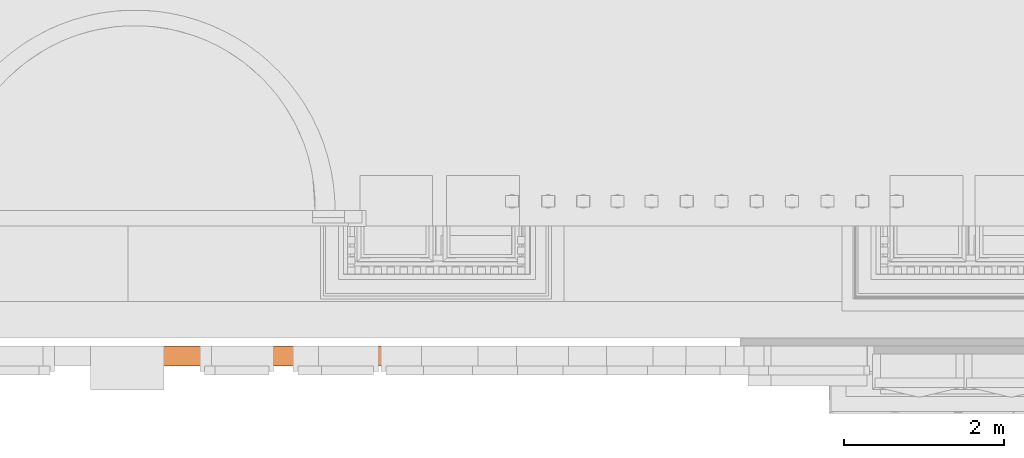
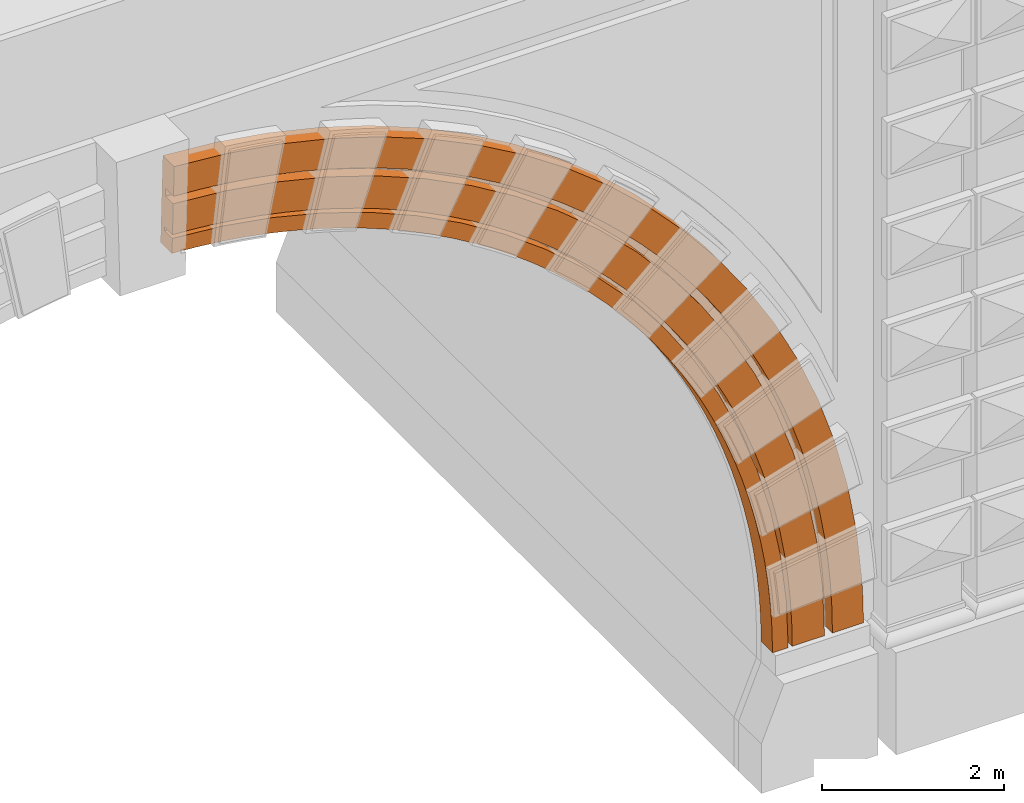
# One storey, part 36 of 44: 1 proxy.
"""IFC2X3 building model written with IfcOpenShell, lengths in metres."""

from ifc_helpers import new_model, entity, si_unit, converted_unit, derived_unit, direction, frame, origin, place, context, subcontext, project, spatial, faceted_brep, material, element, save


model = new_model("IFC2X3")

# Units and contexts
model_context = context("Model", 3, precision=1e-05, world=origin(), true_north=direction((6.12303176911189e-17, 1.0)))
body_context = subcontext(model_context, "Body", "Model", "MODEL_VIEW")
ifc_project = project(units=[si_unit("LENGTHUNIT", "METRE"), si_unit("AREAUNIT", "SQUARE_METRE"), si_unit("VOLUMEUNIT", "CUBIC_METRE"), converted_unit("PLANEANGLEUNIT", "DEGREE", entity("IfcRatioMeasure", 0.0174532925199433), si_unit("PLANEANGLEUNIT", "RADIAN"), dimensions=[0, 0, 0, 0, 0, 0, 0]), si_unit("MASSUNIT", "GRAM", prefix="KILO"), derived_unit("MASSDENSITYUNIT", [(si_unit("MASSUNIT", "GRAM", prefix="KILO"), 1), (si_unit("LENGTHUNIT", "METRE"), -3)]), si_unit("TIMEUNIT", "SECOND"), si_unit("FREQUENCYUNIT", "HERTZ"), si_unit("THERMODYNAMICTEMPERATUREUNIT", "DEGREE_CELSIUS"), derived_unit("THERMALTRANSMITTANCEUNIT", [(si_unit("MASSUNIT", "GRAM", prefix="KILO"), 1), (si_unit("THERMODYNAMICTEMPERATUREUNIT", "KELVIN"), -1), (si_unit("TIMEUNIT", "SECOND"), -3)]), derived_unit("VOLUMETRICFLOWRATEUNIT", [(si_unit("LENGTHUNIT", "METRE"), 3), (si_unit("TIMEUNIT", "SECOND"), -1)]), si_unit("ELECTRICCURRENTUNIT", "AMPERE"), si_unit("ELECTRICVOLTAGEUNIT", "VOLT"), si_unit("POWERUNIT", "WATT"), si_unit("FORCEUNIT", "NEWTON", prefix="KILO"), si_unit("ILLUMINANCEUNIT", "LUX"), si_unit("LUMINOUSFLUXUNIT", "LUMEN"), si_unit("LUMINOUSINTENSITYUNIT", "CANDELA"), derived_unit("USERDEFINED", [(si_unit("MASSUNIT", "GRAM", prefix="KILO"), -1), (si_unit("LENGTHUNIT", "METRE"), -2), (si_unit("TIMEUNIT", "SECOND"), 3), (si_unit("LUMINOUSFLUXUNIT", "LUMEN"), 1)]), derived_unit("LINEARVELOCITYUNIT", [(si_unit("LENGTHUNIT", "METRE"), 1), (si_unit("TIMEUNIT", "SECOND"), -1)]), si_unit("PRESSUREUNIT", "PASCAL"), derived_unit("USERDEFINED", [(si_unit("LENGTHUNIT", "METRE"), -2), (si_unit("MASSUNIT", "GRAM", prefix="KILO"), 1), (si_unit("TIMEUNIT", "SECOND"), -2)])], contexts=[model_context])

# Site, building, storey
site_placement = place(None, origin())
site = spatial("IfcSite", under=ifc_project, at=site_placement, Name="Default", CompositionType="ELEMENT")
building_placement = place(site_placement, origin())
building = spatial("IfcBuilding", under=site, at=building_placement, CompositionType="ELEMENT")
storey_placement = place(building_placement, origin())
storey = spatial("IfcBuildingStorey", under=building, at=storey_placement, Name="Livello 1", CompositionType="ELEMENT", Elevation=0.0)

# Proxy
ifc_material = material(Name="Travertino")
proxy_placement = place(storey_placement, frame((0.330023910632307, -0.484467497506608, 1.63453645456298)))
element("IfcBuildingElementProxy", 1, at=proxy_placement, inside=storey, material=ifc_material, Name="Stratigrafia", context=body_context, shape_type="Brep", body=[
    faceted_brep([(3.66785024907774, 0.0, 7.15240246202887), (3.84039615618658, 0.0, 6.81641642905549), (4.21215010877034, 0.0, 6.81287864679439), (3.57181402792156, 0.0, 6.97693078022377), (3.09877038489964, 0.0, 7.44852214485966), (2.73146384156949, 0.0, 7.39410196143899), (3.01692706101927, 0.0, 7.26599276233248), (3.2971854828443, 0.0, 7.12686536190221), (4.10252449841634, 0.0, 6.6455657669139), (4.84626354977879, 0.0, 6.07366328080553), (5.07870777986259, 0.0, 5.8642094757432), (5.21336506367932, 0.0, 6.01211296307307), (5.30282002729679, 0.0, 5.64586360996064), (5.87594781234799, 0.0, 5.31471735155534), (5.54465643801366, 0.0, 5.6634151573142), (4.72836616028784, 0.0, 6.43201154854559), (4.35780147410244, 0.0, 6.46463792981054), (4.6058398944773, 0.0, 6.27390733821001), (0.645545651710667, 0.0, 8.1671808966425), (0.934099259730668, 0.0, 7.92169843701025), (1.27801837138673, 0.0, 8.05986352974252), (0.624683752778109, 0.0, 7.96820930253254), (0.00663778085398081, 0.0, 8.22493460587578), (0.0015952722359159, 0.0, 8.02492897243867), (0.313691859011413, 0.0, 8.00263688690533), (1.24146907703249, 0.0, 7.86317483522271), (2.14666214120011, 0.0, 7.61650552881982), (2.44122879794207, 0.0, 7.51099865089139), (2.50836473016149, 0.0, 7.69944030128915), (1.90021694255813, 0.0, 7.90363390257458), (1.54632700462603, 0.0, 7.79272726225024), (1.84821065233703, 0.0, 7.71046256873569), (7.59548196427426, 0.0, 1.90913307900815), (7.40110790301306, 0.0, 1.86202278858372), (7.46762192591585, 0.0, 1.55628253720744), (7.32273942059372, 0.0, 2.16494125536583), (7.13093233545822, 0.0, 2.7604800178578), (7.23263534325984, 0.0, 2.46457848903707), (7.42267025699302, 0.0, 2.52693148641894), (7.2022874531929, 0.0, 3.12940155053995), (7.52218060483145, 0.0, 1.24818422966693), (7.71967363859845, 0.0, 1.27975625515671), (7.79449145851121, 0.0, 0.642621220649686), (7.59511918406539, 0.0, 0.626785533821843), (7.61338845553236, 0.0, 0.314427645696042), (7.61948129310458, 0.0, 0.00159527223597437), (7.81948129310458, 0.0, 0.0015952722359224), (7.56470118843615, 0.0, 0.938195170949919), (6.10935103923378, 0.0, 4.69037463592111), (6.28697494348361, 0.0, 4.43278782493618), (6.27048262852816, 0.0, 4.80887050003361), (6.62443992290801, 0.0, 4.27384433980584), (5.9218319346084, 0.0, 4.94084978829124), (5.51826037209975, 0.0, 5.4189568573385), (5.72470204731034, 0.0, 5.18383337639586), (6.93567123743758, 0.0, 3.71288638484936), (6.75785883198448, 0.0, 3.62131472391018), (6.89336391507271, 0.0, 3.33928708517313), (7.01778465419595, 0.0, 3.05219703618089), (6.4544342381, 0.0, 4.16848004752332), (6.61147493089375, 0.0, 3.89785218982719), (4.36569528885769, 0.0, 7.26375401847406), (3.80937170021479, 0.0, 7.12791318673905), (4.0795670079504, 0.0, 6.96067453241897), (3.80012832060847, 0.0, 7.60595490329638), (3.21019697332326, 0.0, 7.90419716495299), (2.96313095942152, 0.0, 7.56581027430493), (3.25074270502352, 0.0, 7.4307038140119), (3.53296136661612, 0.0, 7.28466649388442), (4.34314973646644, 0.0, 6.78319659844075), (4.84893646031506, 0.0, 6.39858210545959), (5.09039626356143, 0.0, 6.19201145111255), (5.41081830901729, 0.0, 6.45563171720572), (5.32375619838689, 0.0, 5.97633249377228), (5.8843328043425, 0.0, 5.99438182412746), (4.90362849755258, 0.0, 6.87957267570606), (4.59973206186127, 0.0, 6.59574051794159), (5.54867290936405, 0.0, 5.75186257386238), (0.264396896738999, 0.0, 8.2578416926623), (0.520241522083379, 0.0, 8.23279758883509), (0.676726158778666, 0.0, 8.62710915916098), (0.835230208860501, 0.0, 8.19088817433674), (1.14837988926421, 0.0, 8.13692939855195), (1.32890413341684, 0.0, 8.51926051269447), (0.00789839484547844, 0.0, 8.27493549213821), (0.018239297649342, 0.0, 8.6850961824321), (1.45922980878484, 0.0, 8.07100065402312), (2.59931147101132, 0.0, 8.1567567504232), (2.07220493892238, 0.0, 7.90363874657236), (2.37342824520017, 0.0, 7.8024518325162), (2.67054930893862, 0.0, 7.68978708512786), (1.76732259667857, 0.0, 7.99319894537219), (1.97100316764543, 0.0, 8.36217368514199), (7.77214940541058, 0.0, 1.26774898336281), (7.8146850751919, 0.0, 0.952844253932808), (8.17926893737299, 0.0, 1.31889137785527), (7.71756805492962, 0.0, 1.58079075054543), (7.38065520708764, 0.0, 2.80517159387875), (7.48244088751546, 0.0, 2.504150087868), (7.880467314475, 0.0, 2.60577185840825), (7.57260715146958, 0.0, 2.19944643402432), (7.65102133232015, 0.0, 1.89150895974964), (8.05434652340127, 0.0, 1.96801527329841), (8.25451241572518, 0.0, 0.6621525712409), (7.84511247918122, 0.0, 0.636539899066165), (7.86338684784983, 0.0, 0.319301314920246), (7.86948129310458, 0.0, 0.00159527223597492), (8.27964199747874, 0.0, 0.00159527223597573), (7.65863645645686, 0.0, 3.22847444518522), (6.32143473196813, 0.0, 5.49848934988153), (6.16951939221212, 0.0, 5.029071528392), (6.71959733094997, 0.0, 4.97082090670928), (6.3574853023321, 0.0, 4.77286245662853), (6.5354870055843, 0.0, 4.50963315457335), (5.7648154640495, 0.0, 5.5189319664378), (5.97186583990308, 0.0, 5.27788339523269), (6.7032625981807, 0.0, 4.23977092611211), (7.07651893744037, 0.0, 4.41442679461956), (7.39013628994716, 0.0, 3.83252336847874), (7.00716343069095, 0.0, 3.68174511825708), (7.14284152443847, 0.0, 3.39440259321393), (7.26739987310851, 0.0, 3.10206804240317), (6.86056522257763, 0.0, 3.96367283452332), (3.84709909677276, 0.0, 7.69425371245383), (4.13651140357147, 0.0, 7.52664900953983), (4.45633182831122, 0.0, 7.7917055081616), (4.41934168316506, 0.0, 7.3481613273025), (5.01080087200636, 0.0, 7.41622764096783), (3.27284904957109, 0.0, 8.41673717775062), (3.2502115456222, 0.0, 7.99586068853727), (3.55152332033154, 0.0, 7.85073304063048), (3.8759869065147, 0.0, 8.1258002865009), (4.69518089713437, 0.0, 7.15904880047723), (5.47681686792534, 0.0, 6.53077159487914), (5.72081220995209, 0.0, 6.30204229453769), (6.03048249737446, 0.0, 6.5493104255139), (5.95593425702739, 0.0, 6.06420108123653), (6.49027826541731, 0.0, 6.06247636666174), (5.53644855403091, 0.0, 7.00136132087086), (4.96363011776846, 0.0, 6.95958492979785), (5.2243011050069, 0.0, 6.7500581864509), (0.354416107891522, 0.0, 8.7621877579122), (0.686959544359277, 0.0, 8.72661132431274), (0.697903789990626, 0.0, 9.12159776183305), (1.01790980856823, 0.0, 8.67841648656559), (1.34678826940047, 0.0, 8.61767294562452), (1.35922085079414, 0.0, 9.01633953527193), (0.0207604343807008, 0.0, 8.7850943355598), (0.0306765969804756, 0.0, 9.17840816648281), (1.67311929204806, 0.0, 8.54446855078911), (2.65012228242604, 0.0, 8.66297064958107), (2.31625558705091, 0.0, 8.36111854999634), (2.63213073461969, 0.0, 8.25123811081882), (2.94359953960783, 0.0, 8.12942676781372), (1.99643092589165, 0.0, 8.45890917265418), (2.01111469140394, 0.0, 8.86319264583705), (8.22111911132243, 0.0, 1.66384105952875), (8.2780771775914, 0.0, 1.33428590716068), (8.68665528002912, 0.0, 1.25801531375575), (8.32246354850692, 0.0, 1.00280337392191), (8.35421403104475, 0.0, 0.669872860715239), (8.75399471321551, 0.0, 0.591768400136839), (8.19725808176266, 0.0, 3.20274826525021), (7.86948742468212, 0.0, 2.95331184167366), (7.97572865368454, 0.0, 2.63619416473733), (8.06983545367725, 0.0, 2.3152662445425), (8.15167172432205, 0.0, 1.99099221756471), (8.40754561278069, 0.0, 2.56698203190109), (8.57096739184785, 0.0, 1.91758779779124), (8.37328270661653, 0.0, 0.335975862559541), (8.37964199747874, 0.0, 0.00159527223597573), (8.76822451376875, 0.0, 0.296834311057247), (8.77296941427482, 0.0, 0.00159527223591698), (6.60472731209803, 0.0, 5.2995085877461), (6.80109135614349, 0.0, 5.02878366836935), (6.91339330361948, 0.0, 5.54344533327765), (7.29757991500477, 0.0, 4.99497455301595), (6.98701977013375, 0.0, 4.75078826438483), (6.18184296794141, 0.0, 5.81759192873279), (6.39821162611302, 0.0, 5.56257149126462), (7.16224365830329, 0.0, 4.46592442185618), (7.62123360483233, 0.0, 3.57428813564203), (7.75126541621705, 0.0, 3.26616064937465), (7.94122190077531, 0.0, 3.82150914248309), (7.47958004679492, 0.0, 3.8772486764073), (7.64079720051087, 0.0, 4.4199776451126), (7.32650960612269, 0.0, 4.1746041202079), (8.77296941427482, 0.25, 0.00159527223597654), (7.61948129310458, 0.25, 0.00159527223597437), (7.61338845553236, 0.25, 0.314427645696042), (7.59511918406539, 0.25, 0.626785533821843), (7.56470118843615, 0.25, 0.938195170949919), (7.52218060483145, 0.25, 1.24818422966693), (7.46762192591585, 0.25, 1.55628253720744), (7.40110790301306, 0.25, 1.86202278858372), (7.32273942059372, 0.25, 2.16494125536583), (7.23263534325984, 0.25, 2.46457848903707), (7.13093233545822, 0.25, 2.7604800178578), (7.01778465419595, 0.25, 3.05219703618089), (6.89336391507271, 0.25, 3.33928708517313), (6.75785883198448, 0.25, 3.62131472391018), (6.61147493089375, 0.25, 3.89785218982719), (6.4544342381, 0.25, 4.16848004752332), (6.28697494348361, 0.25, 4.43278782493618), (6.10935103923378, 0.25, 4.69037463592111), (5.9218319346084, 0.25, 4.94084978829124), (5.72470204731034, 0.25, 5.18383337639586), (5.51826037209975, 0.25, 5.4189568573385), (5.30282002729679, 0.25, 5.64586360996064), (5.07870777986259, 0.25, 5.8642094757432), (4.84626354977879, 0.25, 6.07366328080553), (4.6058398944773, 0.25, 6.27390733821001), (4.35780147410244, 0.25, 6.46463792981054), (4.10252449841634, 0.25, 6.6455657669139), (3.84039615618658, 0.25, 6.81641642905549), (3.57181402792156, 0.25, 6.97693078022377), (3.2971854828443, 0.25, 7.12686536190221), (3.01692706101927, 0.25, 7.26599276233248), (2.73146384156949, 0.25, 7.39410196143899), (2.44122879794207, 0.25, 7.51099865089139), (2.14666214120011, 0.25, 7.61650552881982), (1.84821065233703, 0.25, 7.71046256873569), (1.54632700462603, 0.25, 7.79272726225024), (1.24146907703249, 0.25, 7.86317483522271), (0.934099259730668, 0.25, 7.92169843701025), (0.624683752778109, 0.25, 7.96820930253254), (0.313691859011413, 0.25, 8.00263688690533), (0.0015952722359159, 0.25, 8.02492897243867), (0.0306765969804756, 0.25, 9.17840816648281), (0.69790378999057, 0.25, 9.12159776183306), (1.35922085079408, 0.25, 9.01633953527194), (2.01111469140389, 0.25, 8.86319264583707), (2.65012228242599, 0.25, 8.66297064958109), (3.27284904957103, 0.25, 8.41673717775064), (3.87598690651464, 0.25, 8.12580028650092), (4.45633182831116, 0.25, 7.79170550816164), (5.01080087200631, 0.25, 7.41622764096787), (5.53644855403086, 0.25, 7.0013613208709), (6.03048249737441, 0.25, 6.54931042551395), (6.49027826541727, 0.25, 6.06247636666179), (6.91339330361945, 0.25, 5.5434453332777), (7.29757991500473, 0.25, 4.994974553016), (7.64079720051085, 0.25, 4.41997764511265), (7.94122190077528, 0.25, 3.82150914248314), (8.19725808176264, 0.25, 3.20274826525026), (8.40754561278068, 0.25, 2.56698203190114), (8.57096739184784, 0.25, 1.9175877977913), (8.68665528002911, 0.25, 1.25801531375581), (8.7539947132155, 0.25, 0.591768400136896), (8.76822451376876, 0.25, 0.296834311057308), (0.0207604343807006, 0.170061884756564, 8.78509433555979), (0.00663778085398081, 0.170061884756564, 8.22493460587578), (0.00789839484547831, 0.170061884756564, 8.27493549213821), (0.0182392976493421, 0.170061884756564, 8.6850961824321), (7.86948129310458, 0.170061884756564, 0.00159527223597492), (7.81948129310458, 0.170061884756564, 0.00159527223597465), (8.37964199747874, 0.170061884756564, 0.00159527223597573), (8.27964199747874, 0.170061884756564, 0.00159527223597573), (6.70326259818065, 0.170061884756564, 4.2397709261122), (6.53548700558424, 0.170061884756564, 4.50963315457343), (6.35748530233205, 0.170061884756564, 4.7728624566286), (6.16951939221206, 0.170061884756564, 5.02907152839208), (5.97186583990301, 0.170061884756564, 5.27788339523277), (5.76481546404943, 0.170061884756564, 5.51893196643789), (5.54867290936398, 0.170061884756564, 5.75186257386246), (5.32375619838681, 0.170061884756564, 5.97633249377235), (5.09039626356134, 0.170061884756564, 6.19201145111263), (4.84893646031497, 0.170061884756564, 6.39858210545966), (4.59973206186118, 0.170061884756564, 6.59574051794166), (4.34314973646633, 0.170061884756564, 6.78319659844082), (4.07956700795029, 0.170061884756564, 6.96067453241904), (3.80937170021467, 0.170061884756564, 7.12791318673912), (3.53296136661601, 0.170061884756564, 7.28466649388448), (3.2507427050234, 0.170061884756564, 7.43070381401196), (2.9631309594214, 0.170061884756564, 7.56581027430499), (2.67054930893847, 0.170061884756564, 7.68978708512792), (2.37342824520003, 0.170061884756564, 7.80245183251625), (2.07220493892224, 0.170061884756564, 7.90363874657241), (1.76732259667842, 0.170061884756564, 7.99319894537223), (1.45922980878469, 0.170061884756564, 8.07100065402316), (1.14837988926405, 0.170061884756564, 8.13692939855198), (0.835230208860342, 0.170061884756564, 8.19088817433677), (0.520241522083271, 0.170061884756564, 8.2327975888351), (0.264389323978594, 0.170061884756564, 8.25784231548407), (0.645530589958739, 0.170061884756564, 8.16718285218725), (1.27800414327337, 0.170061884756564, 8.05986651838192), (1.90020362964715, 0.170061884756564, 7.90363780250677), (2.50835240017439, 0.170061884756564, 7.69944498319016), (3.0987590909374, 0.170061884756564, 7.44852747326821), (3.66784002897, 0.170061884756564, 7.15240829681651), (4.21214098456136, 0.170061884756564, 6.81288484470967), (4.72835813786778, 0.170061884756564, 6.43201796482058), (5.21335813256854, 0.170061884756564, 6.01211945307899), (5.54465029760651, 0.170061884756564, 5.66342156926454), (5.87594246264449, 0.170061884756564, 5.31472368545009), (6.27047827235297, 0.170061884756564, 4.80887655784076), (6.62443649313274, 0.170061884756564, 4.2738499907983), (6.93566865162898, 0.170061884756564, 3.71289150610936), (7.20228561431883, 0.170061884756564, 3.12940602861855), (7.42266905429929, 0.170061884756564, 2.52693521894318), (7.59548127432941, 0.170061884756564, 1.90913597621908), (7.71967332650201, 0.170061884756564, 1.27975824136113), (7.79449137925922, 0.170061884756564, 0.642622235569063), (7.86338684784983, 0.170061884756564, 0.319301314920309), (7.84511247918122, 0.170061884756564, 0.636539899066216), (7.81468507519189, 0.170061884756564, 0.952844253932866), (7.77214940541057, 0.170061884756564, 1.26774898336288), (7.71756805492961, 0.170061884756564, 1.5807907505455), (7.65102133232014, 0.170061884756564, 1.89150895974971), (7.57260715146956, 0.170061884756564, 2.19944643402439), (7.48244088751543, 0.170061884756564, 2.50415008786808), (7.38065520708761, 0.170061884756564, 2.80517159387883), (7.26739987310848, 0.170061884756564, 3.10206804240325), (7.14284152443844, 0.170061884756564, 3.39440259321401), (7.00716343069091, 0.170061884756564, 3.68174511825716), (6.86056522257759, 0.170061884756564, 3.9636728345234), (7.21957642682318, 0.170061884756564, 4.36715824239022), (7.05237886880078, 0.170061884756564, 4.64734928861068), (6.87490254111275, 0.170061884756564, 4.92114519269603), (6.68739175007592, 0.170061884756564, 5.18816905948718), (6.49010461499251, 0.170061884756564, 5.44805331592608), (6.2833127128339, 0.170061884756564, 5.70044021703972), (6.06730070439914, 0.170061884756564, 5.94498233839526), (5.84236594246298, 0.170061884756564, 6.18134305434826), (5.60881806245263, 0.170061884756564, 6.40919700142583), (5.36697855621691, 0.170061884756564, 6.62823052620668), (5.11718032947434, 0.170061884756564, 6.8381421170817), (4.85976724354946, 0.170061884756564, 7.03864281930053), (4.59509364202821, 0.170061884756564, 7.22945663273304), (4.32352386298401, 0.170061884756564, 7.41032089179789), (4.04543173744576, 0.170061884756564, 7.58098662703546), (3.76120007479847, 0.170061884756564, 7.7412189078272), (3.47122013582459, 0.170061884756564, 7.89079716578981), (3.17589109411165, 0.170061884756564, 8.02951549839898), (2.87561948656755, 0.170061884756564, 8.15718295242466), (2.57081865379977, 0.170061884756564, 8.27362378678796), (2.26190817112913, 0.170061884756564, 8.37867771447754), (1.94931327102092, 0.170061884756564, 8.47220012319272), (1.63346425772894, 0.170061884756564, 8.55406227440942), (1.31479591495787, 0.170061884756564, 8.624151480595), (0.993746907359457, 0.170061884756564, 8.68237126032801), (0.670759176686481, 0.170061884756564, 8.72864147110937), (0.34627733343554, 0.170061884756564, 8.76289841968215), (0.676713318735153, 0.170061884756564, 8.62711078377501), (1.32889201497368, 0.170061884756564, 8.51926299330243), (1.97099183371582, 0.170061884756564, 8.3621769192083), (2.5993009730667, 0.170061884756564, 8.15676063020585), (3.21018735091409, 0.170061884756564, 7.90420157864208), (3.8001196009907, 0.170061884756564, 7.60595973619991), (4.36568748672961, 0.170061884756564, 7.26375915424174), (4.90362161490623, 0.170061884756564, 6.87957799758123), (5.41081233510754, 0.170061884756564, 6.45563710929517), (5.88432771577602, 0.170061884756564, 5.99438717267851), (6.32143049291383, 0.170061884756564, 5.4984945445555), (6.7195938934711, 0.170061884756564, 4.97082584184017), (7.07651624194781, 0.170061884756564, 4.41443137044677), (7.39013426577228, 0.170061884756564, 3.83252749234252), (7.65863502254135, 0.170061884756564, 3.22847803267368), (7.88046638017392, 0.170061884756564, 2.60577483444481), (8.05434598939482, 0.170061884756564, 1.96801757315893), (8.17926869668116, 0.170061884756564, 1.31889294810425), (8.25451235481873, 0.170061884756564, 0.662153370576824), (8.37358908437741, 0.170061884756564, 0.32782438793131), (8.35543867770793, 0.170061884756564, 0.653604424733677), (8.32521576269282, 0.170061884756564, 0.978486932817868), (8.28296194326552, 0.170061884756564, 1.30202469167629), (8.22873538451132, 0.170061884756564, 1.62377233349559), (8.1626107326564, 0.170061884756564, 1.943286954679), (8.08467901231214, 0.170061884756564, 2.26012872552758), (7.99504750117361, 0.170061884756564, 2.57386149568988), (7.89383958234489, 0.170061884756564, 2.88405339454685), (7.78119457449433, 0.170061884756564, 3.19027742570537), (7.65726754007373, 0.170061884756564, 3.49211205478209), (7.52222907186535, 0.170061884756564, 3.78914178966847), (7.37626505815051, 0.170061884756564, 4.08095775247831)], [[[0, 1, 2]], [[3, 1, 0]], [[4, 5, 6]], [[6, 7, 4]], [[0, 7, 3]], [[0, 4, 7]], [[1, 8, 2]], [[9, 10, 11]], [[12, 13, 14]], [[12, 11, 10]], [[9, 11, 15]], [[2, 16, 15]], [[16, 2, 8]], [[17, 15, 16]], [[15, 17, 9]], [[18, 19, 20]], [[21, 19, 18]], [[22, 23, 24]], [[24, 18, 22]], [[18, 24, 21]], [[19, 25, 20]], [[26, 27, 28]], [[28, 27, 5]], [[5, 4, 28]], [[26, 28, 29]], [[20, 30, 29]], [[30, 20, 25]], [[31, 29, 30]], [[29, 31, 26]], [[32, 33, 34]], [[32, 35, 33]], [[36, 37, 38]], [[35, 38, 37]], [[32, 38, 35]], [[36, 38, 39]], [[34, 40, 41]], [[42, 43, 44]], [[45, 46, 44]], [[42, 44, 46]], [[41, 40, 47]], [[34, 41, 32]], [[42, 41, 47]], [[47, 43, 42]], [[48, 49, 50]], [[50, 49, 51]], [[48, 50, 52]], [[53, 54, 13]], [[13, 52, 50]], [[52, 13, 54]], [[53, 13, 12]], [[55, 56, 57]], [[58, 39, 57]], [[39, 58, 36]], [[55, 57, 39]], [[59, 60, 51]], [[55, 51, 60]], [[60, 56, 55]], [[59, 51, 49]], [[61, 62, 63]], [[64, 62, 61]], [[65, 66, 67]], [[68, 64, 67]], [[64, 68, 62]], [[65, 67, 64]], [[63, 69, 61]], [[70, 71, 72]], [[72, 73, 74]], [[71, 73, 72]], [[69, 75, 61]], [[75, 69, 76]], [[75, 76, 70]], [[70, 72, 75]], [[73, 77, 74]], [[78, 79, 80]], [[81, 82, 83]], [[79, 81, 80]], [[84, 78, 85]], [[85, 78, 80]], [[81, 83, 80]], [[82, 86, 83]], [[87, 88, 89]], [[89, 90, 87]], [[65, 90, 66]], [[65, 87, 90]], [[86, 91, 92]], [[92, 91, 88]], [[88, 87, 92]], [[86, 92, 83]], [[93, 94, 95]], [[96, 93, 95]], [[97, 98, 99]], [[100, 101, 102]], [[98, 100, 99]], [[96, 102, 101]], [[103, 104, 105]], [[106, 107, 105]], [[103, 105, 107]], [[100, 102, 99]], [[96, 95, 102]], [[103, 95, 94]], [[104, 103, 94]], [[97, 99, 108]], [[109, 110, 111]], [[111, 112, 113]], [[111, 110, 112]], [[114, 74, 77]], [[74, 114, 109]], [[115, 109, 114]], [[109, 115, 110]], [[113, 116, 117]], [[118, 119, 120]], [[121, 108, 120]], [[108, 121, 97]], [[118, 120, 108]], [[113, 117, 111]], [[117, 116, 122]], [[118, 117, 122]], [[122, 119, 118]], [[123, 124, 125]], [[125, 126, 127]], [[124, 126, 125]], [[128, 129, 130]], [[131, 130, 123]], [[123, 125, 131]], [[128, 130, 131]], [[126, 132, 127]], [[133, 134, 135]], [[136, 135, 134]], [[135, 136, 137]], [[133, 135, 138]], [[139, 127, 132]], [[127, 139, 138]], [[140, 138, 139]], [[138, 140, 133]], [[141, 142, 143]], [[144, 145, 146]], [[142, 144, 143]], [[147, 141, 148]], [[148, 141, 143]], [[144, 146, 143]], [[145, 149, 146]], [[150, 151, 152]], [[152, 153, 150]], [[128, 153, 129]], [[128, 150, 153]], [[149, 154, 155]], [[155, 154, 151]], [[151, 150, 155]], [[149, 155, 146]], [[156, 157, 158]], [[159, 160, 161]], [[157, 159, 158]], [[162, 163, 164]], [[165, 166, 167]], [[164, 165, 167]], [[156, 168, 166]], [[169, 170, 171]], [[172, 171, 170]], [[169, 171, 161]], [[166, 168, 167]], [[156, 158, 168]], [[161, 158, 159]], [[169, 161, 160]], [[162, 164, 167]], [[173, 174, 175]], [[176, 174, 177]], [[175, 174, 176]], [[178, 179, 137]], [[175, 137, 179]], [[179, 173, 175]], [[178, 137, 136]], [[177, 180, 176]], [[181, 182, 183]], [[162, 183, 182]], [[182, 163, 162]], [[181, 183, 184]], [[180, 185, 176]], [[185, 180, 186]], [[184, 185, 186]], [[185, 184, 183]], [[12, 14, 11]], [[187, 188, 189, 190, 191, 192, 193, 194, 195, 196, 197, 198, 199, 200, 201, 202, 203, 204, 205, 206, 207, 208, 209, 210, 211, 212, 213, 214, 215, 216, 217, 218, 219, 220, 221, 222, 223, 224, 225, 226, 227, 228, 229, 230, 231, 232, 233, 234, 235, 236, 237, 238, 239, 240, 241, 242, 243, 244, 245, 246, 247, 248, 249]], [[25, 223, 222, 30]], [[31, 221, 220, 26]], [[31, 30, 222, 221]], [[26, 220, 219, 27]], [[24, 23, 227, 226]], [[19, 21, 225, 224]], [[226, 225, 21, 24]], [[19, 224, 223, 25]], [[5, 27, 219, 218]], [[16, 8, 213, 212]], [[9, 17, 211, 210]], [[212, 211, 17, 16]], [[10, 9, 210, 209]], [[7, 6, 217, 216]], [[215, 214, 1, 3]], [[7, 216, 215, 3]], [[8, 1, 214, 213]], [[6, 5, 218, 217]], [[12, 10, 209, 208]], [[208, 207, 53, 12]], [[49, 203, 202, 59]], [[60, 201, 200, 56]], [[60, 59, 202, 201]], [[56, 200, 199, 57]], [[54, 53, 207, 206]], [[48, 52, 205, 204]], [[206, 205, 52, 54]], [[48, 204, 203, 49]], [[58, 57, 199, 198]], [[40, 34, 193, 192]], [[43, 47, 191, 190]], [[192, 191, 47, 40]], [[44, 43, 190, 189]], [[37, 36, 197, 196]], [[195, 194, 33, 35]], [[37, 196, 195, 35]], [[34, 33, 194, 193]], [[36, 58, 198, 197]], [[45, 44, 189, 188]], [[250, 147, 148, 228, 227, 23, 22, 251, 252, 84, 85, 253]], [[167, 168, 246, 245]], [[158, 161, 248, 247]], [[246, 168, 158, 247]], [[162, 167, 245, 244]], [[241, 240, 175, 176]], [[185, 183, 243, 242]], [[176, 185, 242, 241]], [[244, 243, 183, 162]], [[137, 175, 240, 239]], [[239, 238, 135, 137]], [[131, 125, 235, 234]], [[127, 138, 237, 236]], [[235, 125, 127, 236]], [[128, 131, 234, 233]], [[230, 229, 143, 146]], [[155, 150, 232, 231]], [[146, 155, 231, 230]], [[233, 232, 150, 128]], [[148, 143, 229, 228]], [[238, 237, 138, 135]], [[172, 187, 249, 171]], [[249, 248, 161, 171]], [[107, 106, 254, 255, 46, 45, 188, 187, 172, 170, 256, 257]], [[258, 259, 260, 261, 262, 263, 264, 265, 266, 267, 268, 269, 270, 271, 272, 273, 274, 275, 276, 277, 278, 279, 280, 281, 282, 283, 252, 251, 284, 285, 286, 287, 288, 289, 290, 291, 292, 293, 294, 295, 296, 297, 298, 299, 300, 301, 302, 255, 254, 303, 304, 305, 306, 307, 308, 309, 310, 311, 312, 313, 314, 315]], [[316, 317, 318, 319, 320, 321, 322, 323, 324, 325, 326, 327, 328, 329, 330, 331, 332, 333, 334, 335, 336, 337, 338, 339, 340, 341, 342, 250, 253, 343, 344, 345, 346, 347, 348, 349, 350, 351, 352, 353, 354, 355, 356, 357, 358, 359, 360, 361, 257, 256, 362, 363, 364, 365, 366, 367, 368, 369, 370, 371, 372, 373, 374]], [[307, 96, 101, 308]], [[308, 101, 100, 309]], [[309, 100, 98, 310]], [[304, 303, 105, 104]], [[306, 305, 94, 93]], [[104, 94, 305, 304]], [[306, 93, 96, 307]], [[311, 310, 98, 97]], [[259, 258, 116, 113]], [[261, 260, 112, 110]], [[113, 112, 260, 259]], [[262, 261, 110, 115]], [[313, 312, 121, 120]], [[119, 122, 315, 314]], [[313, 120, 119, 314]], [[258, 315, 122, 116]], [[312, 311, 97, 121]], [[263, 262, 115, 114]], [[106, 105, 303, 254]], [[268, 76, 69, 269]], [[269, 69, 63, 270]], [[270, 63, 62, 271]], [[265, 264, 77, 73]], [[267, 266, 71, 70]], [[73, 71, 266, 265]], [[267, 70, 76, 268]], [[272, 271, 62, 68]], [[278, 277, 88, 91]], [[280, 279, 86, 82]], [[91, 86, 279, 278]], [[281, 280, 82, 81]], [[274, 273, 67, 66]], [[90, 89, 276, 275]], [[274, 66, 90, 275]], [[277, 276, 89, 88]], [[273, 272, 68, 67]], [[282, 281, 81, 79]], [[77, 264, 263, 114]], [[286, 20, 29]], [[284, 22, 18]], [[20, 285, 18]], [[287, 29, 28]], [[2, 15, 291]], [[289, 4, 0]], [[290, 0, 2]], [[28, 4, 288]], [[292, 15, 11]], [[294, 14, 13]], [[251, 22, 284]], [[285, 284, 18]], [[20, 286, 285]], [[287, 286, 29]], [[11, 14, 293]], [[28, 288, 287]], [[288, 4, 289]], [[290, 289, 0]], [[291, 290, 2]], [[15, 292, 291]], [[11, 293, 292]], [[297, 51, 55]], [[295, 13, 50]], [[51, 296, 50]], [[298, 55, 39]], [[41, 42, 302]], [[300, 38, 32]], [[301, 32, 41]], [[39, 38, 299]], [[255, 42, 46]], [[294, 13, 295]], [[296, 295, 50]], [[51, 297, 296]], [[298, 297, 55]], [[39, 299, 298]], [[299, 38, 300]], [[301, 300, 32]], [[302, 301, 41]], [[42, 255, 302]], [[14, 294, 293]], [[78, 282, 79]], [[283, 282, 78]], [[84, 252, 283]], [[78, 84, 283]], [[345, 83, 92]], [[343, 85, 80]], [[83, 344, 80]], [[346, 92, 87]], [[61, 75, 350]], [[348, 65, 64]], [[349, 64, 61]], [[87, 65, 347]], [[351, 75, 72]], [[253, 85, 343]], [[344, 343, 80]], [[83, 345, 344]], [[346, 345, 92]], [[347, 346, 87]], [[348, 347, 65]], [[348, 64, 349]], [[350, 349, 61]], [[351, 350, 75]], [[72, 352, 351]], [[72, 74, 352]], [[356, 117, 118]], [[354, 109, 111]], [[117, 355, 111]], [[357, 118, 108]], [[95, 103, 361]], [[359, 99, 102]], [[360, 102, 95]], [[108, 99, 358]], [[257, 103, 107]], [[74, 353, 352]], [[74, 109, 353]], [[354, 353, 109]], [[111, 355, 354]], [[356, 355, 117]], [[357, 356, 118]], [[358, 357, 108]], [[358, 99, 359]], [[360, 359, 102]], [[361, 360, 95]], [[103, 257, 361]], [[366, 156, 367]], [[368, 165, 369]], [[368, 367, 166]], [[369, 164, 370]], [[363, 362, 169]], [[365, 364, 159]], [[160, 364, 363]], [[365, 157, 366]], [[371, 370, 163]], [[318, 317, 177]], [[320, 319, 173]], [[174, 319, 318]], [[321, 320, 179]], [[373, 372, 181]], [[186, 316, 374]], [[373, 184, 374]], [[317, 316, 180]], [[372, 371, 182]], [[322, 321, 178]], [[170, 362, 256]], [[362, 170, 169]], [[169, 160, 363]], [[364, 160, 159]], [[159, 157, 365]], [[156, 366, 157]], [[367, 156, 166]], [[368, 166, 165]], [[369, 165, 164]], [[164, 163, 370]], [[182, 371, 163]], [[372, 182, 181]], [[184, 373, 181]], [[186, 374, 184]], [[180, 316, 186]], [[180, 177, 317]], [[174, 318, 177]], [[173, 319, 174]], [[320, 173, 179]], [[179, 178, 321]], [[178, 136, 322]], [[327, 132, 328]], [[329, 124, 330]], [[329, 328, 126]], [[330, 123, 331]], [[324, 323, 134]], [[326, 325, 140]], [[133, 325, 324]], [[326, 139, 327]], [[332, 331, 130]], [[339, 338, 145]], [[341, 340, 142]], [[144, 340, 339]], [[342, 341, 141]], [[334, 333, 153]], [[335, 334, 152]], [[154, 337, 336]], [[335, 151, 336]], [[338, 337, 149]], [[129, 333, 332]], [[250, 342, 147]], [[134, 323, 136]], [[324, 134, 133]], [[133, 140, 325]], [[326, 140, 139]], [[139, 132, 327]], [[126, 328, 132]], [[329, 126, 124]], [[330, 124, 123]], [[331, 123, 130]], [[130, 129, 332]], [[153, 333, 129]], [[334, 153, 152]], [[151, 335, 152]], [[154, 336, 151]], [[149, 337, 154]], [[149, 145, 338]], [[144, 339, 145]], [[142, 340, 144]], [[341, 142, 141]], [[141, 147, 342]], [[322, 136, 323]]]),
])

save(model, "model.ifc")
